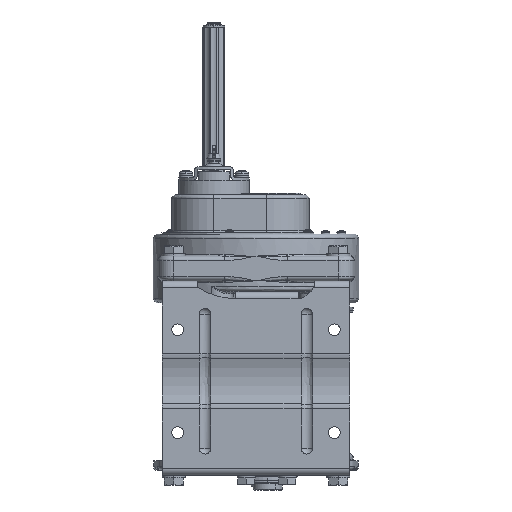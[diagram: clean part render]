
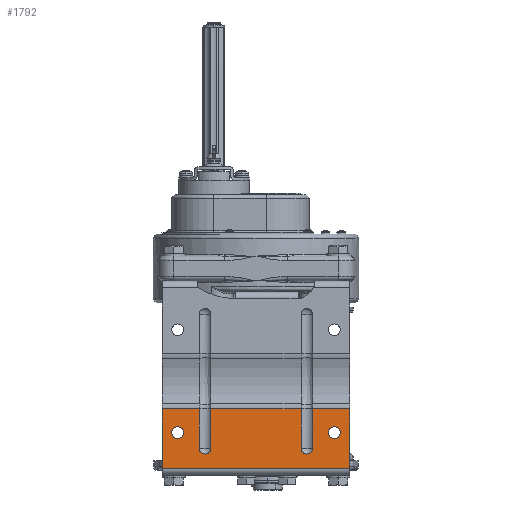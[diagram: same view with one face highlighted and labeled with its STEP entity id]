
A CAD part, front view. The second image highlights one B-rep face of the part: STEP entity #1792.
In plain terms, the highlighted planar face has unit normal (0, -1, 0).
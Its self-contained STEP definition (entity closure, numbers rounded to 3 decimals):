
#1792=ADVANCED_FACE('',(#19653,#19654,#19655),#19652,.T.);
#19652=PLANE('',#41029);
#19653=FACE_OUTER_BOUND('',#41030,.T.);
#19654=FACE_BOUND('',#41031,.T.);
#19655=FACE_BOUND('',#41032,.T.);
#41026=CARTESIAN_POINT('',(11.,-36.383,-223.2));
#41027=DIRECTION('',(0.,-1.,0.));
#41028=DIRECTION('',(0.,0.,1.));
#41029=AXIS2_PLACEMENT_3D('',#41026,#41027,#41028);
#41030=EDGE_LOOP('',(#58359,#58360,#58361,#58362,#58363,#58364,#58365,#58366,#58367,#58368,#58369,#58370));
#41031=EDGE_LOOP('',(#58371,#58372));
#41032=EDGE_LOOP('',(#58373,#58374));
#58359=ORIENTED_EDGE('',*,*,#67863,.T.);
#58360=ORIENTED_EDGE('',*,*,#67860,.F.);
#58361=ORIENTED_EDGE('',*,*,#67861,.T.);
#58362=ORIENTED_EDGE('',*,*,#67857,.T.);
#58363=ORIENTED_EDGE('',*,*,#67864,.T.);
#58364=ORIENTED_EDGE('',*,*,#67865,.F.);
#58365=ORIENTED_EDGE('',*,*,#67866,.F.);
#58366=ORIENTED_EDGE('',*,*,#67867,.T.);
#58367=ORIENTED_EDGE('',*,*,#67868,.T.);
#58368=ORIENTED_EDGE('',*,*,#67869,.F.);
#58369=ORIENTED_EDGE('',*,*,#67870,.F.);
#58370=ORIENTED_EDGE('',*,*,#67871,.T.);
#58371=ORIENTED_EDGE('',*,*,#67872,.F.);
#58372=ORIENTED_EDGE('',*,*,#67873,.F.);
#58373=ORIENTED_EDGE('',*,*,#67874,.F.);
#58374=ORIENTED_EDGE('',*,*,#67875,.F.);
#67857=EDGE_CURVE('',#102215,#102176,#102216,.T.);
#67860=EDGE_CURVE('',#102229,#102175,#102236,.T.);
#67861=EDGE_CURVE('',#102229,#102215,#102242,.T.);
#67863=EDGE_CURVE('',#102254,#102175,#102255,.T.);
#67864=EDGE_CURVE('',#102176,#102195,#102261,.T.);
#67865=EDGE_CURVE('',#102267,#102195,#102268,.T.);
#67866=EDGE_CURVE('',#102274,#102267,#102275,.T.);
#67867=EDGE_CURVE('',#102274,#102196,#102281,.T.);
#67868=EDGE_CURVE('',#102196,#102287,#102288,.T.);
#67869=EDGE_CURVE('',#102294,#102287,#102295,.T.);
#67870=EDGE_CURVE('',#102301,#102294,#102302,.T.);
#67871=EDGE_CURVE('',#102301,#102254,#102308,.T.);
#67872=EDGE_CURVE('',#102314,#102315,#102316,.T.);
#67873=EDGE_CURVE('',#102315,#102314,#102322,.T.);
#67874=EDGE_CURVE('',#102328,#102329,#102330,.T.);
#67875=EDGE_CURVE('',#102329,#102328,#102336,.T.);
#102175=VERTEX_POINT('',#135620);
#102176=VERTEX_POINT('',#135621);
#102195=VERTEX_POINT('',#135634);
#102196=VERTEX_POINT('',#135635);
#102215=VERTEX_POINT('',#135648);
#102216=LINE('',#135649,#135650);
#102229=VERTEX_POINT('',#135657);
#102236=LINE('',#135662,#135663);
#102242=CIRCLE('',#135668,6.);
#102254=VERTEX_POINT('',#135673);
#102255=LINE('',#135674,#135675);
#102261=LINE('',#135677,#135678);
#102267=VERTEX_POINT('',#135680);
#102268=LINE('',#135681,#135682);
#102274=VERTEX_POINT('',#135684);
#102275=CIRCLE('',#135688,6.);
#102281=LINE('',#135689,#135690);
#102287=VERTEX_POINT('',#135692);
#102288=LINE('',#135693,#135694);
#102294=VERTEX_POINT('',#135696);
#102295=LINE('',#135697,#135698);
#102301=VERTEX_POINT('',#135700);
#102302=LINE('',#135701,#135702);
#102308=LINE('',#135704,#135705);
#102314=VERTEX_POINT('',#135707);
#102315=VERTEX_POINT('',#135708);
#102316=CIRCLE('',#135712,6.);
#102322=CIRCLE('',#135716,6.);
#102328=VERTEX_POINT('',#135717);
#102329=VERTEX_POINT('',#135718);
#102330=CIRCLE('',#135722,6.);
#102336=CIRCLE('',#135726,6.);
#135620=CARTESIAN_POINT('',(-37.,-36.383,-156.096));
#135621=CARTESIAN_POINT('',(-49.,-36.383,-156.096));
#135634=CARTESIAN_POINT('',(-141.,-36.383,-156.096));
#135635=CARTESIAN_POINT('',(-153.,-36.383,-156.096));
#135648=CARTESIAN_POINT('',(-49.,-36.383,-196.302));
#135649=CARTESIAN_POINT('',(-49.,-36.383,-196.302));
#135650=VECTOR('',#135651,40.206);
#135651=DIRECTION('',(0.,0.,1.));
#135657=CARTESIAN_POINT('',(-37.,-36.383,-196.302));
#135662=CARTESIAN_POINT('',(-37.,-36.383,-196.302));
#135663=VECTOR('',#135664,40.206);
#135664=DIRECTION('',(0.,0.,1.));
#135665=CARTESIAN_POINT('',(-43.,-36.383,-196.302));
#135666=DIRECTION('',(0.,1.,0.));
#135667=DIRECTION('',(1.,0.,0.));
#135668=AXIS2_PLACEMENT_3D('',#135665,#135666,#135667);
#135673=CARTESIAN_POINT('',(1.,-36.383,-156.096));
#135674=CARTESIAN_POINT('',(1.,-36.383,-156.096));
#135675=VECTOR('',#135676,38.);
#135676=DIRECTION('',(-1.,0.,0.));
#135677=CARTESIAN_POINT('',(-49.,-36.383,-156.096));
#135678=VECTOR('',#135679,92.);
#135679=DIRECTION('',(-1.,0.,0.));
#135680=CARTESIAN_POINT('',(-141.,-36.383,-196.302));
#135681=CARTESIAN_POINT('',(-141.,-36.383,-196.302));
#135682=VECTOR('',#135683,40.206);
#135683=DIRECTION('',(0.,0.,1.));
#135684=CARTESIAN_POINT('',(-153.,-36.383,-196.302));
#135685=CARTESIAN_POINT('',(-147.,-36.383,-196.302));
#135686=DIRECTION('',(0.,-1.,0.));
#135687=DIRECTION('',(1.,0.,0.));
#135688=AXIS2_PLACEMENT_3D('',#135685,#135686,#135687);
#135689=CARTESIAN_POINT('',(-153.,-36.383,-196.302));
#135690=VECTOR('',#135691,40.206);
#135691=DIRECTION('',(0.,0.,1.));
#135692=CARTESIAN_POINT('',(-191.,-36.383,-156.096));
#135693=CARTESIAN_POINT('',(-153.,-36.383,-156.096));
#135694=VECTOR('',#135695,38.);
#135695=DIRECTION('',(-1.,0.,0.));
#135696=CARTESIAN_POINT('',(-191.,-36.383,-217.1));
#135697=CARTESIAN_POINT('',(-191.,-36.383,-217.1));
#135698=VECTOR('',#135699,61.004);
#135699=DIRECTION('',(0.,0.,1.));
#135700=CARTESIAN_POINT('',(1.,-36.383,-217.1));
#135701=CARTESIAN_POINT('',(1.,-36.383,-217.1));
#135702=VECTOR('',#135703,192.);
#135703=DIRECTION('',(-1.,0.,0.));
#135704=CARTESIAN_POINT('',(1.,-36.383,-217.1));
#135705=VECTOR('',#135706,61.004);
#135706=DIRECTION('',(0.,0.,1.));
#135707=CARTESIAN_POINT('',(-15.,-36.383,-186.4));
#135708=CARTESIAN_POINT('',(-15.,-36.383,-174.4));
#135709=CARTESIAN_POINT('',(-15.,-36.383,-180.4));
#135710=DIRECTION('',(0.,-1.,0.));
#135711=DIRECTION('',(0.,0.,1.));
#135712=AXIS2_PLACEMENT_3D('',#135709,#135710,#135711);
#135713=CARTESIAN_POINT('',(-15.,-36.383,-180.4));
#135714=DIRECTION('',(0.,-1.,0.));
#135715=DIRECTION('',(0.,0.,1.));
#135716=AXIS2_PLACEMENT_3D('',#135713,#135714,#135715);
#135717=CARTESIAN_POINT('',(-175.,-36.383,-186.4));
#135718=CARTESIAN_POINT('',(-175.,-36.383,-174.4));
#135719=CARTESIAN_POINT('',(-175.,-36.383,-180.4));
#135720=DIRECTION('',(0.,-1.,0.));
#135721=DIRECTION('',(0.,0.,1.));
#135722=AXIS2_PLACEMENT_3D('',#135719,#135720,#135721);
#135723=CARTESIAN_POINT('',(-175.,-36.383,-180.4));
#135724=DIRECTION('',(0.,-1.,0.));
#135725=DIRECTION('',(0.,0.,1.));
#135726=AXIS2_PLACEMENT_3D('',#135723,#135724,#135725);
